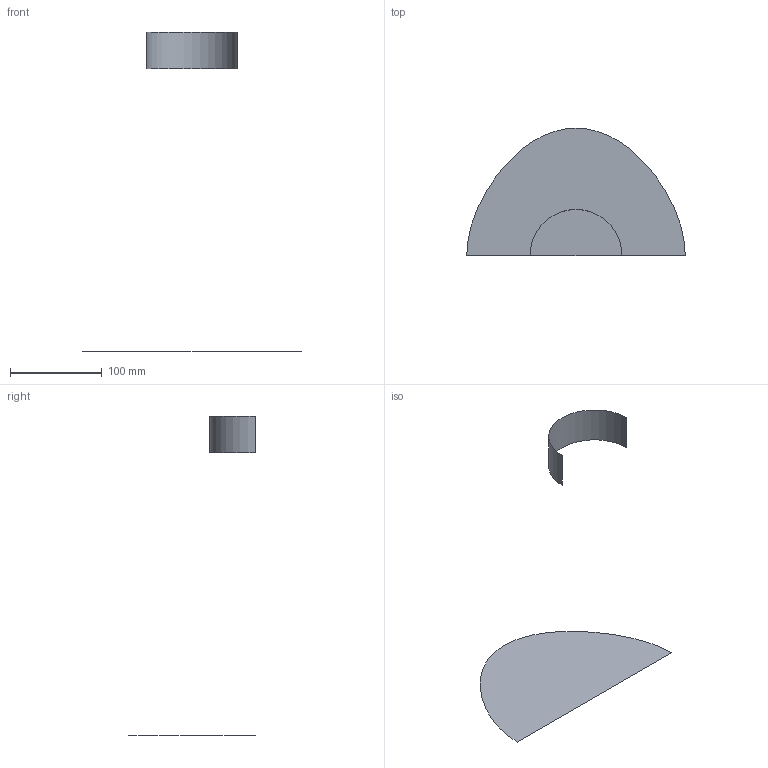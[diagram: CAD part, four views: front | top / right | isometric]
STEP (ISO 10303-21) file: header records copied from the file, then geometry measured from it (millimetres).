
FILE_DESCRIPTION(('CATIA V5 STEP Exchange'),'2;1');
FILE_NAME('C:\_Andres\UNIVERSIDAD\IQS\ASIGNATURAS\DAO\Controles\1617\c1\1original\Sala_Ferrero_Ej00-base_v29.stp','2017-02-06T16:27:53+00:00',('none'),('none'),'CATIA Version 5-6 Release 2014 SP1 HF18','CATIA V5 STEP AP203','none');
FILE_SCHEMA(('CONFIG_CONTROL_DESIGN'));
Length unit declared in the file: millimetre
Products named in the file (1): Sala_Ferrero_Ej00-base_v29
Bounding box: 238 x 139 x 348 mm (x, y, z)
Surface area: 31182.6 mm2 (no closed solid volume)
Topology: 0 solids, 2 shells, 2 faces, 16 edges, 26 vertices
Faces by surface type: cylinder 1, plane 1
Entity records: 230 total; most frequent: CARTESIAN_POINT 78, DIRECTION 16, COMPOSITE_CURVE_SEGMENT 9, TRIMMED_CURVE 9, AXIS2_PLACEMENT_3D 8, COMPOSITE_CURVE 7, ORIENTED_EDGE 7, EDGE_CURVE 7
